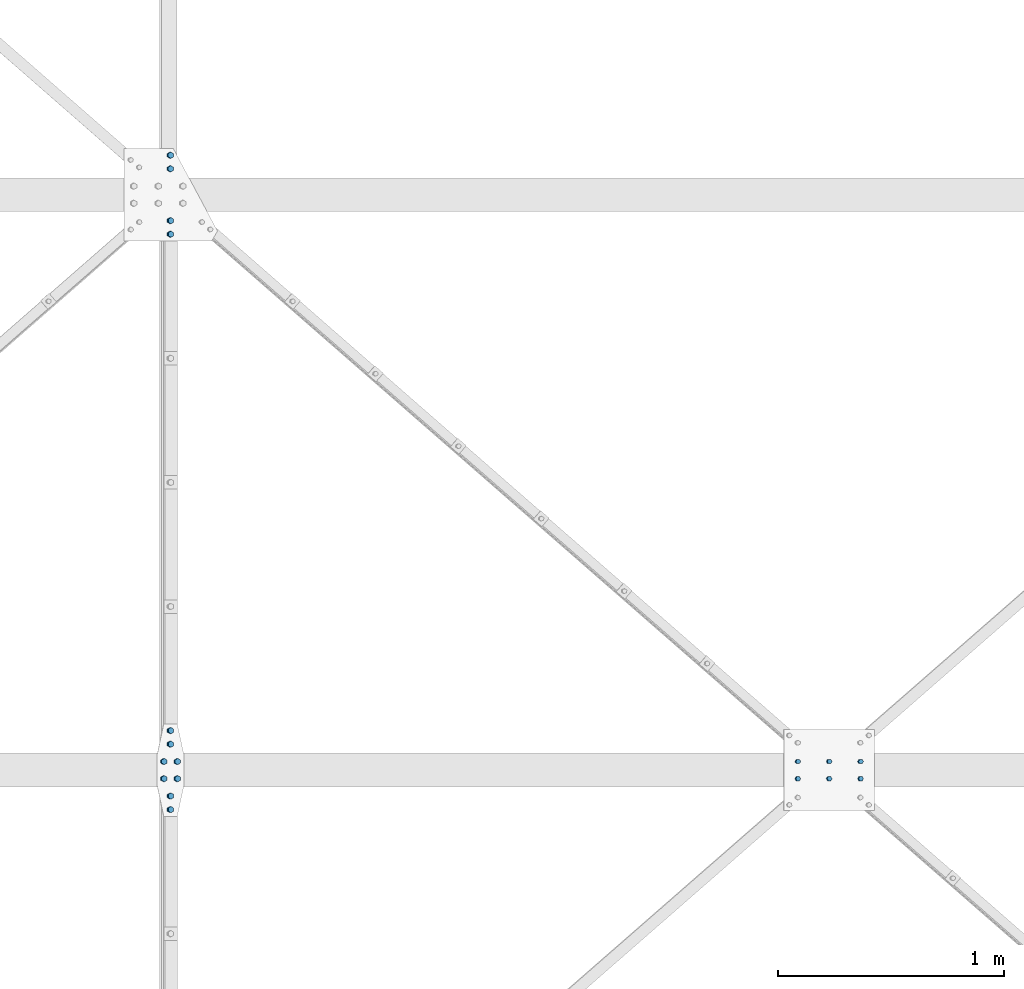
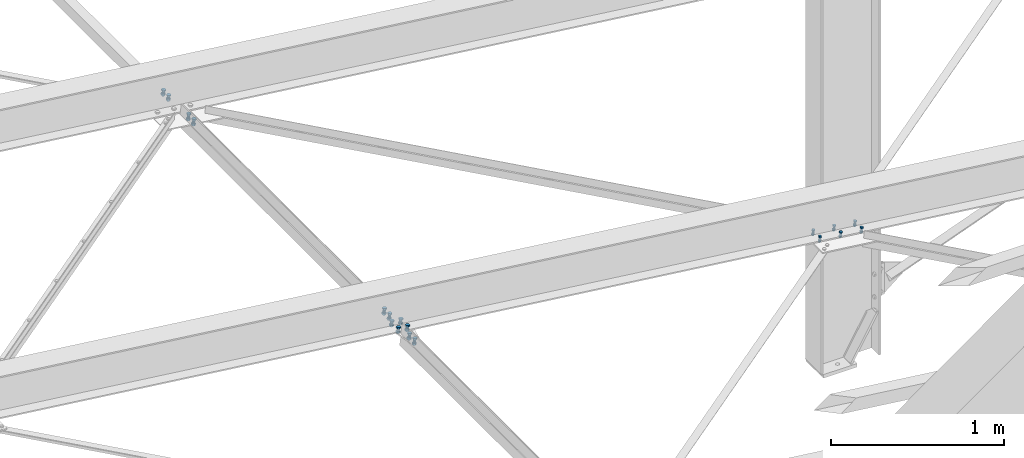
# One storey, part 111 of 3134: 6 mechanical fasteners, 5 elements without a shape of their own.
"""IFC2X3 building model written with IfcOpenShell, lengths in millimetres."""

from ifc_helpers import new_model, si_unit, frame, origin_with_axes, place, context, subcontext, project, spatial, faceted_brep, source, transform, mapped, material, type_object, element, aggregate, save


model = new_model("IFC2X3")

# Units and contexts
model_context = context("Model", 3, precision=1e-05, world=origin_with_axes())
body_context = subcontext(model_context, "Body", "Model", "MODEL_VIEW")
ifc_project = project(units=[si_unit("LENGTHUNIT", "METRE", prefix="MILLI"), si_unit("AREAUNIT", "SQUARE_METRE"), si_unit("VOLUMEUNIT", "CUBIC_METRE"), si_unit("MASSUNIT", "GRAM", prefix="KILO"), si_unit("TIMEUNIT", "SECOND"), si_unit("PLANEANGLEUNIT", "RADIAN"), si_unit("SOLIDANGLEUNIT", "STERADIAN"), si_unit("THERMODYNAMICTEMPERATUREUNIT", "DEGREE_CELSIUS"), si_unit("LUMINOUSINTENSITYUNIT", "LUMEN")], contexts=[model_context])

# Site, building, storey
site_placement = place(None, origin_with_axes())
site = spatial("IfcSite", under=ifc_project, at=site_placement, CompositionType="ELEMENT")
building_placement = place(site_placement, origin_with_axes())
building = spatial("IfcBuilding", under=site, at=building_placement, Name="Undefined", CompositionType="ELEMENT")
storey_placement = place(building_placement, origin_with_axes())
storey = spatial("IfcBuildingStorey", under=building, at=storey_placement, Name="Undefined", CompositionType="ELEMENT", Elevation=0.0)

# Assembly, mechanical fasteners
assembly_1_placement = place(storey_placement, origin_with_axes())
assembly_1 = element("IfcElementAssembly", 1, at=assembly_1_placement, inside=storey, AssemblyPlace="NOTDEFINED", PredefinedType="RIGID_FRAME")
ifc_material = material(Name="8.8")
mechanical_fastener_type = type_object("IfcMechanicalFastenerType", Name="Bolt assembly")
shared_shape_1 = source(origin_with_axes(), body_context, "Body", "Brep", [
    faceted_brep([(13.856406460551, -16.9990000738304, 0.0), (6.92820323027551, -16.9990000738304, 12.0), (-6.92820323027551, -16.9990000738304, 12.0), (-13.856406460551, -16.9990000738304, 1.69692038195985e-15), (-6.92820323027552, -16.9990000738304, -12.0), (6.9282032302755, -16.9990000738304, -12.0), (6.9282032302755, -6.99900007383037, -12.0), (-6.92820323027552, -6.99900007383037, -12.0), (-13.856406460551, -6.99900007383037, 1.69692038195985e-15), (-6.92820323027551, -6.99900007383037, 12.0), (6.92820323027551, -6.99900007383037, 12.0), (13.856406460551, -6.99900007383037, 0.0), (8.0, -6.99900007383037, 0.0), (6.92820323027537, -6.99900007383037, 4.00000000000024), (3.99999999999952, -6.99900007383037, 6.92820323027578), (-8.29068785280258e-13, -6.99900007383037, 8.0), (-4.00000000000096, -6.99900007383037, 6.92820323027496), (-6.9282032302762, -6.99900007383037, 3.99999999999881), (-8.0, -6.99900007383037, -1.65813757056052e-12), (-6.92820323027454, -6.99900007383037, -4.00000000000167), (-3.99999999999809, -6.99900007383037, -6.92820323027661), (2.47832457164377e-12, -6.99900007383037, -8.0), (4.00000000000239, -6.99900007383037, -6.92820323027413), (6.92820323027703, -6.99900007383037, -3.99999999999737), (6.92820323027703, 33.0009999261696, -3.99999999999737), (4.00000000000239, 33.0009999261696, -6.92820323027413), (2.47832457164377e-12, 33.0009999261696, -8.0), (-3.99999999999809, 33.0009999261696, -6.92820323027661), (-6.92820323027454, 33.0009999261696, -4.00000000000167), (-8.0, 33.0009999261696, -1.65813757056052e-12), (-6.9282032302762, 33.0009999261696, 3.99999999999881), (-4.00000000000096, 33.0009999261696, 6.92820323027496), (-8.29068785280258e-13, 33.0009999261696, 8.0), (3.99999999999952, 33.0009999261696, 6.92820323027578), (6.92820323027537, 33.0009999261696, 4.00000000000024), (8.0, 33.0009999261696, 0.0), (13.856406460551, 14.9990000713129, 0.0), (6.92820323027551, 14.9990000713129, 12.0), (-6.92820323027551, 14.9990000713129, 12.0), (-13.856406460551, 14.9990000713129, 1.69692038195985e-15), (-6.92820323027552, 14.9990000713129, -12.0), (6.9282032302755, 14.9990000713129, -12.0), (6.9282032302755, 27.9990000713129, -12.0), (-6.92820323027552, 27.9990000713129, -12.0), (-13.856406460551, 27.9990000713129, 1.69692038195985e-15), (-6.92820323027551, 27.9990000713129, 12.0), (6.92820323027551, 27.9990000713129, 12.0), (13.856406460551, 27.9990000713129, 0.0)], [[[0, 1, 2, 3, 4, 5]], [[6, 7, 8, 9, 10, 11]], [[0, 11, 10, 1]], [[1, 10, 9, 2]], [[2, 9, 8, 3]], [[3, 8, 7, 4]], [[4, 7, 6, 5]], [[5, 6, 11, 0]], [[12, 13, 14, 15, 16, 17, 18, 19, 20, 21, 22, 23]], [[24, 25, 26, 27, 28, 29, 30, 31, 32, 33, 34, 35]], [[12, 35, 34, 13]], [[13, 34, 33, 14]], [[14, 33, 32, 15]], [[15, 32, 31, 16]], [[16, 31, 30, 17]], [[17, 30, 29, 18]], [[18, 29, 28, 19]], [[19, 28, 27, 20]], [[20, 27, 26, 21]], [[21, 26, 25, 22]], [[22, 25, 24, 23]], [[23, 24, 35, 12]], [[36, 37, 38, 39, 40, 41]], [[42, 43, 44, 45, 46, 47]], [[36, 47, 46, 37]], [[37, 46, 45, 38]], [[38, 45, 44, 39]], [[39, 44, 43, 40]], [[40, 43, 42, 41]], [[41, 42, 47, 36]]]),
    faceted_brep([(9.0, -3.46568413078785e-07, 0.0), (7.79422863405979, -3.46568413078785e-07, 4.50000000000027), (4.49999999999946, -3.46568413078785e-07, 7.79422863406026), (-9.3270238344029e-13, -3.46568413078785e-07, 9.0), (-4.50000000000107, -3.46568413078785e-07, 7.79422863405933), (-7.79422863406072, -3.46568413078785e-07, 4.49999999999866), (-9.0, -3.46568413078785e-07, -1.86540476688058e-12), (-7.79422863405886, -3.46568413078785e-07, -4.50000000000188), (-4.49999999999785, -3.46568413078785e-07, -7.79422863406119), (2.78811514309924e-12, -3.46568413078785e-07, -9.0), (4.50000000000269, -3.46568413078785e-07, -7.7942286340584), (7.79422863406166, -3.46568413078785e-07, -4.49999999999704), (7.79422863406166, 8.00000000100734, -4.49999999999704), (4.50000000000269, 8.00000000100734, -7.7942286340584), (2.78811514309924e-12, 8.00000000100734, -9.0), (-4.49999999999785, 8.00000000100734, -7.79422863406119), (-7.79422863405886, 8.00000000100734, -4.50000000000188), (-9.0, 8.00000000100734, -1.86540476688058e-12), (-7.79422863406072, 8.00000000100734, 4.49999999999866), (-4.50000000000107, 8.00000000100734, 7.79422863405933), (-9.3270238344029e-13, 8.00000000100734, 9.0), (4.49999999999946, 8.00000000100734, 7.79422863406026), (7.79422863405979, 8.00000000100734, 4.50000000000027), (9.0, 8.00000000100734, 0.0), (9.0, -6.89900007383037, 0.0), (7.79422863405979, -6.89900007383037, 4.50000000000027), (4.49999999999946, -6.89900007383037, 7.79422863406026), (-9.3270238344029e-13, -6.89900007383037, 9.0), (-4.50000000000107, -6.89900007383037, 7.79422863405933), (-7.79422863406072, -6.89900007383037, 4.49999999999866), (-9.0, -6.89900007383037, -1.86540476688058e-12), (-7.79422863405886, -6.89900007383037, -4.50000000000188), (-4.49999999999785, -6.89900007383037, -7.79422863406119), (2.78811514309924e-12, -6.89900007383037, -9.0), (4.50000000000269, -6.89900007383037, -7.7942286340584), (7.79422863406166, -6.89900007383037, -4.49999999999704), (7.79422863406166, 0.100999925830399, -4.49999999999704), (4.50000000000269, 0.100999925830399, -7.7942286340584), (2.78811514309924e-12, 0.100999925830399, -9.0), (-4.49999999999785, 0.100999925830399, -7.79422863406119), (-7.79422863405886, 0.100999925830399, -4.50000000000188), (-9.0, 0.100999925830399, -1.86540476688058e-12), (-7.79422863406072, 0.100999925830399, 4.49999999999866), (-4.50000000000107, 0.100999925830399, 7.79422863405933), (-9.3270238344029e-13, 0.100999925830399, 9.0), (4.49999999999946, 0.100999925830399, 7.79422863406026), (7.79422863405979, 0.100999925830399, 4.50000000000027), (9.0, 0.100999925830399, 0.0), (9.0, 7.89900007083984, 0.0), (7.79422863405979, 7.89900007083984, 4.50000000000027), (4.49999999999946, 7.89900007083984, 7.79422863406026), (-9.3270238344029e-13, 7.89900007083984, 9.0), (-4.50000000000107, 7.89900007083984, 7.79422863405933), (-7.79422863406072, 7.89900007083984, 4.49999999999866), (-9.0, 7.89900007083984, -1.86540476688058e-12), (-7.79422863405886, 7.89900007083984, -4.50000000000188), (-4.49999999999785, 7.89900007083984, -7.79422863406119), (2.78811514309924e-12, 7.89900007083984, -9.0), (4.50000000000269, 7.89900007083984, -7.7942286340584), (7.79422863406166, 7.89900007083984, -4.49999999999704), (7.79422863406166, 14.9990000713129, -4.49999999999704), (4.50000000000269, 14.9990000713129, -7.7942286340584), (2.78811514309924e-12, 14.9990000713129, -9.0), (-4.49999999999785, 14.9990000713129, -7.79422863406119), (-7.79422863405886, 14.9990000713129, -4.50000000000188), (-9.0, 14.9990000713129, -1.86540476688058e-12), (-7.79422863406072, 14.9990000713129, 4.49999999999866), (-4.50000000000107, 14.9990000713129, 7.79422863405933), (-9.3270238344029e-13, 14.9990000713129, 9.0), (4.49999999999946, 14.9990000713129, 7.79422863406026), (7.79422863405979, 14.9990000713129, 4.50000000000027), (9.0, 14.9990000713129, 0.0)], [[[0, 1, 2, 3, 4, 5, 6, 7, 8, 9, 10, 11]], [[12, 13, 14, 15, 16, 17, 18, 19, 20, 21, 22, 23]], [[0, 23, 22, 1]], [[1, 22, 21, 2]], [[2, 21, 20, 3]], [[3, 20, 19, 4]], [[4, 19, 18, 5]], [[5, 18, 17, 6]], [[6, 17, 16, 7]], [[7, 16, 15, 8]], [[8, 15, 14, 9]], [[9, 14, 13, 10]], [[10, 13, 12, 11]], [[11, 12, 23, 0]], [[24, 25, 26, 27, 28, 29, 30, 31, 32, 33, 34, 35]], [[36, 37, 38, 39, 40, 41, 42, 43, 44, 45, 46, 47]], [[24, 47, 46, 25]], [[25, 46, 45, 26]], [[26, 45, 44, 27]], [[27, 44, 43, 28]], [[28, 43, 42, 29]], [[29, 42, 41, 30]], [[30, 41, 40, 31]], [[31, 40, 39, 32]], [[32, 39, 38, 33]], [[33, 38, 37, 34]], [[34, 37, 36, 35]], [[35, 36, 47, 24]], [[48, 49, 50, 51, 52, 53, 54, 55, 56, 57, 58, 59]], [[60, 61, 62, 63, 64, 65, 66, 67, 68, 69, 70, 71]], [[48, 71, 70, 49]], [[49, 70, 69, 50]], [[50, 69, 68, 51]], [[51, 68, 67, 52]], [[52, 67, 66, 53]], [[53, 66, 65, 54]], [[54, 65, 64, 55]], [[55, 64, 63, 56]], [[56, 63, 62, 57]], [[57, 62, 61, 58]], [[58, 61, 60, 59]], [[59, 60, 71, 48]]]),
])
mechanical_fastener_1_placement = place(assembly_1_placement, frame((38362.9849612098, 2665.0, 4806.73358921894), z_axis=(-0.992623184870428, 0.0, 0.121240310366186), x_axis=(0.0, 1.0, 0.0)))
mechanical_fastener_1 = element("IfcMechanicalFastener", 2, at=mechanical_fastener_1_placement, type_object=mechanical_fastener_type, material=ifc_material, Name="Bolt assembly", NominalDiameter=16.0, NominalLength=40.0, context=body_context, shape_type="MappedRepresentation", body=[
    mapped(shared_shape_1, transform((0.0, 0.0, 0.0))),
    mapped(shared_shape_1, transform((59.9999999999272, 0.0, 5.40239852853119e-10))),
])
mechanical_fastener_2_placement = place(assembly_1_placement, frame((38362.9849612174, 4925.0, 4806.73358921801), z_axis=(-0.992623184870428, 0.0, 0.121240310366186), x_axis=(0.0, 1.0, 0.0)))
mechanical_fastener_2 = element("IfcMechanicalFastener", 3, at=mechanical_fastener_2_placement, type_object=mechanical_fastener_type, material=ifc_material, Name="Bolt assembly", NominalDiameter=16.0, NominalLength=40.0, context=body_context, shape_type="MappedRepresentation", body=[
    mapped(shared_shape_1, transform((0.0, 0.0, 0.0))),
    mapped(shared_shape_1, transform((59.9999999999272, 0.0, 5.40239852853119e-10))),
])
aggregate(assembly_1, [mechanical_fastener_1, mechanical_fastener_2])

# Assembly, mechanical fastener
assembly_2_placement = place(storey_placement, origin_with_axes())
assembly_2 = element("IfcElementAssembly", 4, at=assembly_2_placement, inside=storey, AssemblyPlace="NOTDEFINED", PredefinedType="RIGID_FRAME")
mechanical_fastener_3_placement = place(assembly_2_placement, frame((38362.9849612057, 2435.00000000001, 4806.73358921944), z_axis=(0.992623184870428, 0.0, -0.121240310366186), x_axis=(0.0, -1.0, 0.0)))
mechanical_fastener_3 = element("IfcMechanicalFastener", 5, at=mechanical_fastener_3_placement, type_object=mechanical_fastener_type, material=ifc_material, Name="Bolt assembly", NominalDiameter=16.0, NominalLength=40.0, context=body_context, shape_type="MappedRepresentation", body=[
    mapped(shared_shape_1, transform((0.0, 0.0, 0.0))),
    mapped(shared_shape_1, transform((59.9999999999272, 0.0, 5.40239852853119e-10))),
])
aggregate(assembly_2, [mechanical_fastener_3])

assembly_3_placement = place(storey_placement, origin_with_axes())
assembly_3 = element("IfcElementAssembly", 6, at=assembly_3_placement, inside=storey, Name="PL8", AssemblyPlace="NOTDEFINED", PredefinedType="RIGID_FRAME")
shared_shape_2 = source(origin_with_axes(), body_context, "Body", "Brep", [
    faceted_brep([(13.856406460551, -19.2001597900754, 0.0), (6.92820323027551, -19.2001597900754, 12.0), (-6.92820323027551, -19.2001597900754, 12.0), (-13.856406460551, -19.2001597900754, 1.69692038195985e-15), (-6.92820323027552, -19.2001597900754, -12.0), (6.9282032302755, -19.2001597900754, -12.0), (6.9282032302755, -9.20015979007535, -12.0), (-6.92820323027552, -9.20015979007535, -12.0), (-13.856406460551, -9.20015979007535, 1.69692038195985e-15), (-6.92820323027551, -9.20015979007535, 12.0), (6.92820323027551, -9.20015979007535, 12.0), (13.856406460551, -9.20015979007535, 0.0), (8.0, -9.20015979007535, 0.0), (6.92820323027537, -9.20015979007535, 4.00000000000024), (3.99999999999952, -9.20015979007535, 6.92820323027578), (-8.29068785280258e-13, -9.20015979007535, 8.0), (-4.00000000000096, -9.20015979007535, 6.92820323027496), (-6.9282032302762, -9.20015979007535, 3.99999999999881), (-8.0, -9.20015979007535, -1.65813757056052e-12), (-6.92820323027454, -9.20015979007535, -4.00000000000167), (-3.99999999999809, -9.20015979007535, -6.92820323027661), (2.47832457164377e-12, -9.20015979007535, -8.0), (4.00000000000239, -9.20015979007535, -6.92820323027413), (6.92820323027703, -9.20015979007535, -3.99999999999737), (6.92820323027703, 25.7998402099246, -3.99999999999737), (4.00000000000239, 25.7998402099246, -6.92820323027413), (2.47832457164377e-12, 25.7998402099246, -8.0), (-3.99999999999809, 25.7998402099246, -6.92820323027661), (-6.92820323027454, 25.7998402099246, -4.00000000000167), (-8.0, 25.7998402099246, -1.65813757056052e-12), (-6.9282032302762, 25.7998402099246, 3.99999999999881), (-4.00000000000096, 25.7998402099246, 6.92820323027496), (-8.29068785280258e-13, 25.7998402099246, 8.0), (3.99999999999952, 25.7998402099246, 6.92820323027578), (6.92820323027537, 25.7998402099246, 4.00000000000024), (8.0, 25.7998402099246, 0.0), (13.856406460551, 7.9998399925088, 0.0), (6.92820323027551, 7.9998399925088, 12.0), (-6.92820323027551, 7.9998399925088, 12.0), (-13.856406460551, 7.9998399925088, 1.69692038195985e-15), (-6.92820323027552, 7.9998399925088, -12.0), (6.9282032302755, 7.9998399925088, -12.0), (6.9282032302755, 20.9998399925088, -12.0), (-6.92820323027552, 20.9998399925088, -12.0), (-13.856406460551, 20.9998399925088, 1.69692038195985e-15), (-6.92820323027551, 20.9998399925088, 12.0), (6.92820323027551, 20.9998399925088, 12.0), (13.856406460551, 20.9998399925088, 0.0)], [[[0, 1, 2, 3, 4, 5]], [[6, 7, 8, 9, 10, 11]], [[0, 11, 10, 1]], [[1, 10, 9, 2]], [[2, 9, 8, 3]], [[3, 8, 7, 4]], [[4, 7, 6, 5]], [[5, 6, 11, 0]], [[12, 13, 14, 15, 16, 17, 18, 19, 20, 21, 22, 23]], [[24, 25, 26, 27, 28, 29, 30, 31, 32, 33, 34, 35]], [[12, 35, 34, 13]], [[13, 34, 33, 14]], [[14, 33, 32, 15]], [[15, 32, 31, 16]], [[16, 31, 30, 17]], [[17, 30, 29, 18]], [[18, 29, 28, 19]], [[19, 28, 27, 20]], [[20, 27, 26, 21]], [[21, 26, 25, 22]], [[22, 25, 24, 23]], [[23, 24, 35, 12]], [[36, 37, 38, 39, 40, 41]], [[42, 43, 44, 45, 46, 47]], [[36, 47, 46, 37]], [[37, 46, 45, 38]], [[38, 45, 44, 39]], [[39, 44, 43, 40]], [[40, 43, 42, 41]], [[41, 42, 47, 36]]]),
    faceted_brep([(9.0, -9.10015979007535, 0.0), (7.79422863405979, -9.10015979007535, 4.50000000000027), (4.49999999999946, -9.10015979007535, 7.79422863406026), (-9.3270238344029e-13, -9.10015979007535, 9.0), (-4.50000000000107, -9.10015979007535, 7.79422863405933), (-7.79422863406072, -9.10015979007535, 4.49999999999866), (-9.0, -9.10015979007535, -1.86540476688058e-12), (-7.79422863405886, -9.10015979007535, -4.50000000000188), (-4.49999999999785, -9.10015979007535, -7.79422863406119), (2.78811514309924e-12, -9.10015979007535, -9.0), (4.50000000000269, -9.10015979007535, -7.7942286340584), (7.79422863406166, -9.10015979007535, -4.49999999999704), (7.79422863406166, 0.0998400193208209, -4.49999999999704), (4.50000000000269, 0.0998400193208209, -7.7942286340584), (2.78811514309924e-12, 0.0998400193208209, -9.0), (-4.49999999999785, 0.0998400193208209, -7.79422863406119), (-7.79422863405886, 0.0998400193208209, -4.50000000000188), (-9.0, 0.0998400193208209, -1.86540476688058e-12), (-7.79422863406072, 0.0998400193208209, 4.49999999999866), (-4.50000000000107, 0.0998400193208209, 7.79422863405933), (-9.3270238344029e-13, 0.0998400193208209, 9.0), (4.49999999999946, 0.0998400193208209, 7.79422863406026), (7.79422863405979, 0.0998400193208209, 4.50000000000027), (9.0, 0.0998400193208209, 0.0), (9.0, -0.100160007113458, 0.0), (7.79422863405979, -0.100160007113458, 4.50000000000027), (4.49999999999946, -0.100160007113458, 7.79422863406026), (-9.3270238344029e-13, -0.100160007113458, 9.0), (-4.50000000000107, -0.100160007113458, 7.79422863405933), (-7.79422863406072, -0.100160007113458, 4.49999999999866), (-9.0, -0.100160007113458, -1.86540476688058e-12), (-7.79422863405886, -0.100160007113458, -4.50000000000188), (-4.49999999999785, -0.100160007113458, -7.79422863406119), (2.78811514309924e-12, -0.100160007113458, -9.0), (4.50000000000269, -0.100160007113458, -7.7942286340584), (7.79422863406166, -0.100160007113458, -4.49999999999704), (7.79422863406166, 7.9998399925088, -4.49999999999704), (4.50000000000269, 7.9998399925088, -7.7942286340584), (2.78811514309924e-12, 7.9998399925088, -9.0), (-4.49999999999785, 7.9998399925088, -7.79422863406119), (-7.79422863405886, 7.9998399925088, -4.50000000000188), (-9.0, 7.9998399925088, -1.86540476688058e-12), (-7.79422863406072, 7.9998399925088, 4.49999999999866), (-4.50000000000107, 7.9998399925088, 7.79422863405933), (-9.3270238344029e-13, 7.9998399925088, 9.0), (4.49999999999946, 7.9998399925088, 7.79422863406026), (7.79422863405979, 7.9998399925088, 4.50000000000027), (9.0, 7.9998399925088, 0.0)], [[[0, 1, 2, 3, 4, 5, 6, 7, 8, 9, 10, 11]], [[12, 13, 14, 15, 16, 17, 18, 19, 20, 21, 22, 23]], [[0, 23, 22, 1]], [[1, 22, 21, 2]], [[2, 21, 20, 3]], [[3, 20, 19, 4]], [[4, 19, 18, 5]], [[5, 18, 17, 6]], [[6, 17, 16, 7]], [[7, 16, 15, 8]], [[8, 15, 14, 9]], [[9, 14, 13, 10]], [[10, 13, 12, 11]], [[11, 12, 23, 0]], [[24, 25, 26, 27, 28, 29, 30, 31, 32, 33, 34, 35]], [[36, 37, 38, 39, 40, 41, 42, 43, 44, 45, 46, 47]], [[24, 47, 46, 25]], [[25, 46, 45, 26]], [[26, 45, 44, 27]], [[27, 44, 43, 28]], [[28, 43, 42, 29]], [[29, 42, 41, 30]], [[30, 41, 40, 31]], [[31, 40, 39, 32]], [[32, 39, 38, 33]], [[33, 38, 37, 34]], [[34, 37, 36, 35]], [[35, 36, 47, 24]]]),
])
mechanical_fastener_4_placement = place(assembly_3_placement, frame((38362.984961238, 2512.0, 4806.73358921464), z_axis=(-0.992622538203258, 0.0, 0.121245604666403), x_axis=(0.0, 1.0, 0.0)))
mechanical_fastener_4 = element("IfcMechanicalFastener", 7, at=mechanical_fastener_4_placement, type_object=mechanical_fastener_type, material=ifc_material, Name="Bolt assembly", NominalDiameter=16.0, NominalLength=35.0, context=body_context, shape_type="MappedRepresentation", body=[
    mapped(shared_shape_2, transform((0.0, 4.54747350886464e-13, -30.0000000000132))),
    mapped(shared_shape_2, transform((76.0, -2.00088834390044e-10, -29.9999999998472))),
    mapped(shared_shape_2, transform((0.0, 4.54747350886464e-13, 30.0000000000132))),
    mapped(shared_shape_2, transform((76.0, 1.98269844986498e-10, 29.9999999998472))),
])
aggregate(assembly_3, [mechanical_fastener_4])

assembly_4_placement = place(storey_placement, origin_with_axes())
assembly_4 = element("IfcElementAssembly", 8, at=assembly_4_placement, inside=storey, Name="PL8", AssemblyPlace="NOTDEFINED", PredefinedType="RIGID_FRAME")
shared_shape_3 = source(origin_with_axes(), body_context, "Body", "Brep", [
    faceted_brep([(13.856406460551, -10.0, 0.0), (6.92820323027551, -10.0, 12.0), (-6.92820323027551, -10.0, 12.0), (-13.856406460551, -10.0, 1.69692038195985e-15), (-6.92820323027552, -10.0, -12.0), (6.9282032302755, -10.0, -12.0), (6.9282032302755, 0.0, -12.0), (-6.92820323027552, 0.0, -12.0), (-13.856406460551, 0.0, 1.69692038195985e-15), (-6.92820323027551, 0.0, 12.0), (6.92820323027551, 0.0, 12.0), (13.856406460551, 0.0, 0.0), (8.0, 0.0, 0.0), (6.92820323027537, 0.0, 4.00000000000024), (3.99999999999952, 0.0, 6.92820323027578), (-8.29068785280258e-13, 0.0, 8.0), (-4.00000000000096, 0.0, 6.92820323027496), (-6.9282032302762, 0.0, 3.99999999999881), (-8.0, 0.0, -1.65813757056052e-12), (-6.92820323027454, 0.0, -4.00000000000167), (-3.99999999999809, 0.0, -6.92820323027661), (2.47832457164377e-12, 0.0, -8.0), (4.00000000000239, 0.0, -6.92820323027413), (6.92820323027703, 0.0, -3.99999999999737), (6.92820323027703, 35.0000000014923, -3.99999999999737), (4.00000000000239, 35.0000000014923, -6.92820323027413), (2.47832457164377e-12, 35.0000000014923, -8.0), (-3.99999999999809, 35.0000000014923, -6.92820323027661), (-6.92820323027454, 35.0000000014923, -4.00000000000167), (-8.0, 35.0000000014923, -1.65813757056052e-12), (-6.9282032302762, 35.0000000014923, 3.99999999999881), (-4.00000000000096, 35.0000000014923, 6.92820323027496), (-8.29068785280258e-13, 35.0000000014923, 8.0), (3.99999999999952, 35.0000000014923, 6.92820323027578), (6.92820323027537, 35.0000000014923, 4.00000000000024), (8.0, 35.0000000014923, 0.0), (13.856406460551, 14.9999995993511, 0.0), (6.92820323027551, 14.9999995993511, 12.0), (-6.92820323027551, 14.9999995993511, 12.0), (-13.856406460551, 14.9999995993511, 1.69692038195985e-15), (-6.92820323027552, 14.9999995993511, -12.0), (6.9282032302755, 14.9999995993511, -12.0), (6.9282032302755, 27.9999995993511, -12.0), (-6.92820323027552, 27.9999995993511, -12.0), (-13.856406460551, 27.9999995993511, 1.69692038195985e-15), (-6.92820323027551, 27.9999995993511, 12.0), (6.92820323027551, 27.9999995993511, 12.0), (13.856406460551, 27.9999995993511, 0.0)], [[[0, 1, 2, 3, 4, 5]], [[6, 7, 8, 9, 10, 11]], [[0, 11, 10, 1]], [[1, 10, 9, 2]], [[2, 9, 8, 3]], [[3, 8, 7, 4]], [[4, 7, 6, 5]], [[5, 6, 11, 0]], [[12, 13, 14, 15, 16, 17, 18, 19, 20, 21, 22, 23]], [[24, 25, 26, 27, 28, 29, 30, 31, 32, 33, 34, 35]], [[12, 35, 34, 13]], [[13, 34, 33, 14]], [[14, 33, 32, 15]], [[15, 32, 31, 16]], [[16, 31, 30, 17]], [[17, 30, 29, 18]], [[18, 29, 28, 19]], [[19, 28, 27, 20]], [[20, 27, 26, 21]], [[21, 26, 25, 22]], [[22, 25, 24, 23]], [[23, 24, 35, 12]], [[36, 37, 38, 39, 40, 41]], [[42, 43, 44, 45, 46, 47]], [[36, 47, 46, 37]], [[37, 46, 45, 38]], [[38, 45, 44, 39]], [[39, 44, 43, 40]], [[40, 43, 42, 41]], [[41, 42, 47, 36]]]),
    faceted_brep([(9.0, 7.9, 0.0), (7.79422863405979, 7.9, 4.50000000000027), (4.49999999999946, 7.9, 7.79422863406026), (-9.3270238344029e-13, 7.9, 9.0), (-4.50000000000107, 7.9, 7.79422863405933), (-7.79422863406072, 7.9, 4.49999999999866), (-9.0, 7.9, -1.86540476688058e-12), (-7.79422863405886, 7.9, -4.50000000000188), (-4.49999999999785, 7.9, -7.79422863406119), (2.78811514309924e-12, 7.9, -9.0), (4.50000000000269, 7.9, -7.7942286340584), (7.79422863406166, 7.9, -4.49999999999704), (7.79422863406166, 14.9999995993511, -4.49999999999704), (4.50000000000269, 14.9999995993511, -7.7942286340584), (2.78811514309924e-12, 14.9999995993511, -9.0), (-4.49999999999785, 14.9999995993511, -7.79422863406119), (-7.79422863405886, 14.9999995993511, -4.50000000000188), (-9.0, 14.9999995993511, -1.86540476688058e-12), (-7.79422863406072, 14.9999995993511, 4.49999999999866), (-4.50000000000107, 14.9999995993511, 7.79422863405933), (-9.3270238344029e-13, 14.9999995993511, 9.0), (4.49999999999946, 14.9999995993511, 7.79422863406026), (7.79422863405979, 14.9999995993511, 4.50000000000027), (9.0, 14.9999995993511, 0.0), (9.0, 0.100000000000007, 0.0), (7.79422863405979, 0.100000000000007, 4.50000000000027), (4.49999999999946, 0.100000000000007, 7.79422863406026), (-9.3270238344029e-13, 0.100000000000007, 9.0), (-4.50000000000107, 0.100000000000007, 7.79422863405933), (-7.79422863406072, 0.100000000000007, 4.49999999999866), (-9.0, 0.100000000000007, -1.86540476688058e-12), (-7.79422863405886, 0.100000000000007, -4.50000000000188), (-4.49999999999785, 0.100000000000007, -7.79422863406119), (2.78811514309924e-12, 0.100000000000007, -9.0), (4.50000000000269, 0.100000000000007, -7.7942286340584), (7.79422863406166, 0.100000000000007, -4.49999999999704), (7.79422863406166, 8.1, -4.49999999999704), (4.50000000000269, 8.1, -7.7942286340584), (2.78811514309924e-12, 8.1, -9.0), (-4.49999999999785, 8.1, -7.79422863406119), (-7.79422863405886, 8.1, -4.50000000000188), (-9.0, 8.1, -1.86540476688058e-12), (-7.79422863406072, 8.1, 4.49999999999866), (-4.50000000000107, 8.1, 7.79422863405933), (-9.3270238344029e-13, 8.1, 9.0), (4.49999999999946, 8.1, 7.79422863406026), (7.79422863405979, 8.1, 4.50000000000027), (9.0, 8.1, 0.0)], [[[0, 1, 2, 3, 4, 5, 6, 7, 8, 9, 10, 11]], [[12, 13, 14, 15, 16, 17, 18, 19, 20, 21, 22, 23]], [[0, 23, 22, 1]], [[1, 22, 21, 2]], [[2, 21, 20, 3]], [[3, 20, 19, 4]], [[4, 19, 18, 5]], [[5, 18, 17, 6]], [[6, 17, 16, 7]], [[7, 16, 15, 8]], [[8, 15, 14, 9]], [[9, 14, 13, 10]], [[10, 13, 12, 11]], [[11, 12, 23, 0]], [[24, 25, 26, 27, 28, 29, 30, 31, 32, 33, 34, 35]], [[36, 37, 38, 39, 40, 41, 42, 43, 44, 45, 46, 47]], [[24, 47, 46, 25]], [[25, 46, 45, 26]], [[26, 45, 44, 27]], [[27, 44, 43, 28]], [[28, 43, 42, 29]], [[29, 42, 41, 30]], [[30, 41, 40, 31]], [[31, 40, 39, 32]], [[32, 39, 38, 33]], [[33, 38, 37, 34]], [[34, 37, 36, 35]], [[35, 36, 47, 24]]]),
])
mechanical_fastener_5_placement = place(assembly_4_placement, frame((38362.9849612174, 5274.99999999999, 4806.733589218), z_axis=(0.992623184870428, 0.0, -0.121240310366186), x_axis=(0.0, -1.0, 0.0)))
mechanical_fastener_5 = element("IfcMechanicalFastener", 9, at=mechanical_fastener_5_placement, type_object=mechanical_fastener_type, material=ifc_material, Name="Bolt assembly", NominalDiameter=16.0, NominalLength=35.0, context=body_context, shape_type="MappedRepresentation", body=[
    mapped(shared_shape_3, transform((0.0, 0.0, 0.0))),
    mapped(shared_shape_3, transform((59.9999999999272, 0.0, 5.40239852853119e-10))),
])
aggregate(assembly_4, [mechanical_fastener_5])

assembly_5_placement = place(storey_placement, origin_with_axes())
assembly_5 = element("IfcElementAssembly", 10, at=assembly_5_placement, inside=storey, Name="300", AssemblyPlace="NOTDEFINED", PredefinedType="RIGID_FRAME")
shared_shape_4 = source(origin_with_axes(), body_context, "Body", "Brep", [
    faceted_brep([(10.9696551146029, -17.1999998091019, 0.0), (5.48482755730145, -17.1999998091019, 9.5), (-5.48482755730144, -17.1999998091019, 9.5), (-10.9696551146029, -17.1999998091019, 1.34339530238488e-15), (-5.48482755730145, -17.1999998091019, -9.5), (5.48482755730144, -17.1999998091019, -9.50000000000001), (5.48482755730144, -9.19999978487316, -9.50000000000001), (-5.48482755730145, -9.19999978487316, -9.5), (-10.9696551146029, -9.19999978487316, 1.34339530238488e-15), (-5.48482755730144, -9.19999978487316, 9.5), (5.48482755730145, -9.19999978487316, 9.5), (10.9696551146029, -9.19999978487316, 0.0), (6.0, -9.19999978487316, 0.0), (5.19615242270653, -9.19999978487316, 3.00000000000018), (2.99999999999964, -9.19999978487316, 5.19615242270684), (-6.21801588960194e-13, -9.19999978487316, 6.0), (-3.00000000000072, -9.19999978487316, 5.19615242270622), (-5.19615242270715, -9.19999978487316, 2.9999999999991), (-6.0, -9.19999978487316, -1.24360317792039e-12), (-5.19615242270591, -9.19999978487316, -3.00000000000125), (-2.99999999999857, -9.19999978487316, -5.19615242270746), (1.85874342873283e-12, -9.19999978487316, -6.0), (3.00000000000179, -9.19999978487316, -5.1961524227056), (5.19615242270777, -9.19999978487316, -2.99999999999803), (5.19615242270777, 25.8000002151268, -2.99999999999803), (3.00000000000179, 25.8000002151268, -5.1961524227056), (1.85874342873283e-12, 25.8000002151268, -6.0), (-2.99999999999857, 25.8000002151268, -5.19615242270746), (-5.19615242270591, 25.8000002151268, -3.00000000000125), (-6.0, 25.8000002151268, -1.24360317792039e-12), (-5.19615242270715, 25.8000002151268, 2.9999999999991), (-3.00000000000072, 25.8000002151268, 5.19615242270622), (-6.21801588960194e-13, 25.8000002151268, 6.0), (2.99999999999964, 25.8000002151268, 5.19615242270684), (5.19615242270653, 25.8000002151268, 3.00000000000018), (6.0, 25.8000002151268, 0.0), (10.9696551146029, 8.0, 0.0), (5.48482755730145, 8.0, 9.5), (-5.48482755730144, 8.0, 9.5), (-10.9696551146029, 8.0, 1.34339530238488e-15), (-5.48482755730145, 8.0, -9.5), (5.48482755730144, 8.0, -9.50000000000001), (5.48482755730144, 18.0, -9.50000000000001), (-5.48482755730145, 18.0, -9.5), (-10.9696551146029, 18.0, 1.34339530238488e-15), (-5.48482755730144, 18.0, 9.5), (5.48482755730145, 18.0, 9.5), (10.9696551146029, 18.0, 0.0)], [[[0, 1, 2, 3, 4, 5]], [[6, 7, 8, 9, 10, 11]], [[0, 11, 10, 1]], [[1, 10, 9, 2]], [[2, 9, 8, 3]], [[3, 8, 7, 4]], [[4, 7, 6, 5]], [[5, 6, 11, 0]], [[12, 13, 14, 15, 16, 17, 18, 19, 20, 21, 22, 23]], [[24, 25, 26, 27, 28, 29, 30, 31, 32, 33, 34, 35]], [[12, 35, 34, 13]], [[13, 34, 33, 14]], [[14, 33, 32, 15]], [[15, 32, 31, 16]], [[16, 31, 30, 17]], [[17, 30, 29, 18]], [[18, 29, 28, 19]], [[19, 28, 27, 20]], [[20, 27, 26, 21]], [[21, 26, 25, 22]], [[22, 25, 24, 23]], [[23, 24, 35, 12]], [[36, 37, 38, 39, 40, 41]], [[42, 43, 44, 45, 46, 47]], [[36, 47, 46, 37]], [[37, 46, 45, 38]], [[38, 45, 44, 39]], [[39, 44, 43, 40]], [[40, 43, 42, 41]], [[41, 42, 47, 36]]]),
    faceted_brep([(7.0, -0.1, 0.0), (6.06217782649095, -0.1, 3.50000000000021), (3.49999999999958, -0.1, 6.06217782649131), (-7.25435187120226e-13, -0.1, 7.0), (-3.50000000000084, -0.1, 6.06217782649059), (-6.06217782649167, -0.1, 3.49999999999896), (-7.0, -0.1, -1.45087037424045e-12), (-6.06217782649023, -0.1, -3.50000000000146), (-3.49999999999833, -0.1, -6.06217782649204), (2.1685340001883e-12, -0.1, -7.0), (3.50000000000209, -0.1, -6.06217782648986), (6.0621778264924, -0.1, -3.4999999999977), (6.0621778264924, 8.0000000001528, -3.4999999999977), (3.50000000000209, 8.0000000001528, -6.06217782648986), (2.1685340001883e-12, 8.0000000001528, -7.0), (-3.49999999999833, 8.0000000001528, -6.06217782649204), (-6.06217782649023, 8.0000000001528, -3.50000000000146), (-7.0, 8.0000000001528, -1.45087037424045e-12), (-6.06217782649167, 8.0000000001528, 3.49999999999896), (-3.50000000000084, 8.0000000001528, 6.06217782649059), (-7.25435187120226e-13, 8.0000000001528, 7.0), (3.49999999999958, 8.0000000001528, 6.06217782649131), (6.06217782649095, 8.0000000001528, 3.50000000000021), (7.0, 8.0000000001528, 0.0), (7.0, -9.09999980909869, 0.0), (6.06217782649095, -9.09999980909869, 3.50000000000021), (3.49999999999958, -9.09999980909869, 6.06217782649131), (-7.25435187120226e-13, -9.09999980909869, 7.0), (-3.50000000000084, -9.09999980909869, 6.06217782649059), (-6.06217782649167, -9.09999980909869, 3.49999999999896), (-7.0, -9.09999980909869, -1.45087037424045e-12), (-6.06217782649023, -9.09999980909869, -3.50000000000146), (-3.49999999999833, -9.09999980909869, -6.06217782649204), (2.1685340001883e-12, -9.09999980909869, -7.0), (3.50000000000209, -9.09999980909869, -6.06217782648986), (6.0621778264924, -9.09999980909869, -3.4999999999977), (6.0621778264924, 0.0999999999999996, -3.4999999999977), (3.50000000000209, 0.0999999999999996, -6.06217782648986), (2.1685340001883e-12, 0.0999999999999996, -7.0), (-3.49999999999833, 0.0999999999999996, -6.06217782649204), (-6.06217782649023, 0.0999999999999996, -3.50000000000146), (-7.0, 0.0999999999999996, -1.45087037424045e-12), (-6.06217782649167, 0.0999999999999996, 3.49999999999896), (-3.50000000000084, 0.0999999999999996, 6.06217782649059), (-7.25435187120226e-13, 0.0999999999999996, 7.0), (3.49999999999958, 0.0999999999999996, 6.06217782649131), (6.06217782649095, 0.0999999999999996, 3.50000000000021), (7.0, 0.0999999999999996, 0.0)], [[[0, 1, 2, 3, 4, 5, 6, 7, 8, 9, 10, 11]], [[12, 13, 14, 15, 16, 17, 18, 19, 20, 21, 22, 23]], [[0, 23, 22, 1]], [[1, 22, 21, 2]], [[2, 21, 20, 3]], [[3, 20, 19, 4]], [[4, 19, 18, 5]], [[5, 18, 17, 6]], [[6, 17, 16, 7]], [[7, 16, 15, 8]], [[8, 15, 14, 9]], [[9, 14, 13, 10]], [[10, 13, 12, 11]], [[11, 12, 23, 0]], [[24, 25, 26, 27, 28, 29, 30, 31, 32, 33, 34, 35]], [[36, 37, 38, 39, 40, 41, 42, 43, 44, 45, 46, 47]], [[24, 47, 46, 25]], [[25, 46, 45, 26]], [[26, 45, 44, 27]], [[27, 44, 43, 28]], [[28, 43, 42, 29]], [[29, 42, 41, 30]], [[30, 41, 40, 31]], [[31, 40, 39, 32]], [[32, 39, 38, 33]], [[33, 38, 37, 34]], [[34, 37, 36, 35]], [[35, 36, 47, 24]]]),
])
mechanical_fastener_6_placement = place(assembly_5_placement, frame((41420.7000422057, 2550.0, 4433.26021979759), z_axis=(0.0, -1.0, 0.0), x_axis=(-0.992623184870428, 0.0, 0.121240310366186)))
mechanical_fastener_6 = element("IfcMechanicalFastener", 11, at=mechanical_fastener_6_placement, type_object=mechanical_fastener_type, material=ifc_material, Name="Bolt assembly", NominalDiameter=12.0, NominalLength=35.0, context=body_context, shape_type="MappedRepresentation", body=[
    mapped(shared_shape_4, transform((0.0, 0.0, -38.0))),
    mapped(shared_shape_4, transform((140.000000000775, 5.85714587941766e-10, -38.0))),
    mapped(shared_shape_4, transform((279.999999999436, -4.74756234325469e-10, -38.0))),
    mapped(shared_shape_4, transform((0.0, 0.0, 38.0))),
    mapped(shared_shape_4, transform((140.000000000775, 5.85714587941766e-10, 38.0))),
    mapped(shared_shape_4, transform((279.999999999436, -4.74756234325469e-10, 38.0))),
])
aggregate(assembly_5, [mechanical_fastener_6])

save(model, "model.ifc")
